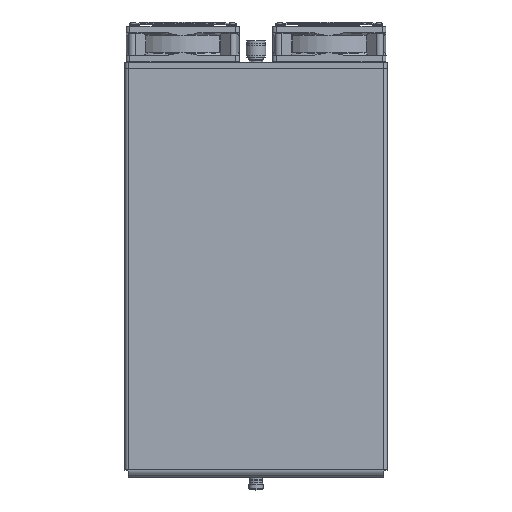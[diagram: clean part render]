
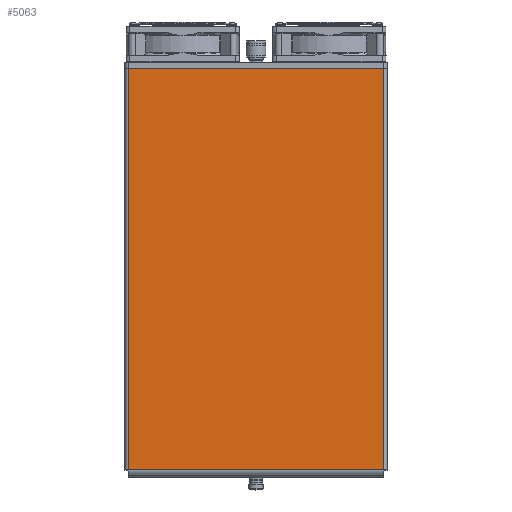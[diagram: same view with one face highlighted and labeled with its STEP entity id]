
A CAD part, top view. The second image highlights one B-rep face of the part: STEP entity #5063.
In plain terms, the highlighted planar face has unit normal (0, 0, 1).
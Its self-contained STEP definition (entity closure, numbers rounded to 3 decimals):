
#5063=ADVANCED_FACE('',(#21017),#21019,.T.);
#21017=FACE_BOUND('',#21018,.T.);
#21018=EDGE_LOOP('',(#38598,#38599,#38600,#38601));
#21019=PLANE('',#21020);
#21020=AXIS2_PLACEMENT_3D('',#21021,#21022,#21023);
#21021=CARTESIAN_POINT('',(0.,0.,121.5));
#21022=DIRECTION('',(0.,0.,1.));
#21023=DIRECTION('',(0.,-1.,0.));
#38598=ORIENTED_EDGE('',*,*,#47020,.T.);
#38599=ORIENTED_EDGE('',*,*,#47031,.T.);
#38600=ORIENTED_EDGE('',*,*,#47032,.T.);
#38601=ORIENTED_EDGE('',*,*,#47033,.T.);
#47020=EDGE_CURVE('',#52129,#52127,#52130,.T.);
#47031=EDGE_CURVE('',#52127,#52146,#52147,.T.);
#47032=EDGE_CURVE('',#52146,#52148,#52149,.T.);
#47033=EDGE_CURVE('',#52148,#52129,#52150,.T.);
#52127=VERTEX_POINT('',#61498);
#52129=VERTEX_POINT('',#61503);
#52130=LINE('',#61504,#61505);
#52146=VERTEX_POINT('',#61544);
#52147=LINE('',#61545,#61546);
#52148=VERTEX_POINT('',#61548);
#52149=LINE('',#61549,#61550);
#52150=LINE('',#61552,#61553);
#61498=CARTESIAN_POINT('',(135.,212.5,121.5));
#61503=CARTESIAN_POINT('',(135.,-212.5,121.5));
#61504=CARTESIAN_POINT('',(135.,-212.5,121.5));
#61505=VECTOR('',#61506,1.);
#61506=DIRECTION('',(0.,1.,0.));
#61544=CARTESIAN_POINT('',(-135.,212.5,121.5));
#61545=CARTESIAN_POINT('',(135.,212.5,121.5));
#61546=VECTOR('',#61547,1.);
#61547=DIRECTION('',(-1.,0.,0.));
#61548=CARTESIAN_POINT('',(-135.,-212.5,121.5));
#61549=CARTESIAN_POINT('',(-135.,212.5,121.5));
#61550=VECTOR('',#61551,1.);
#61551=DIRECTION('',(0.,-1.,0.));
#61552=CARTESIAN_POINT('',(-135.,-212.5,121.5));
#61553=VECTOR('',#61554,1.);
#61554=DIRECTION('',(1.,0.,0.));
